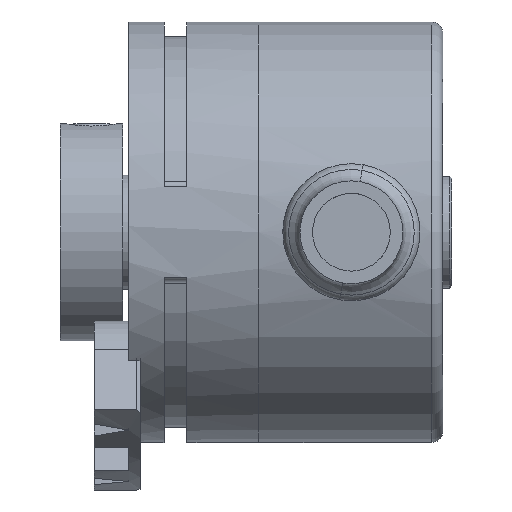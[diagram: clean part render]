
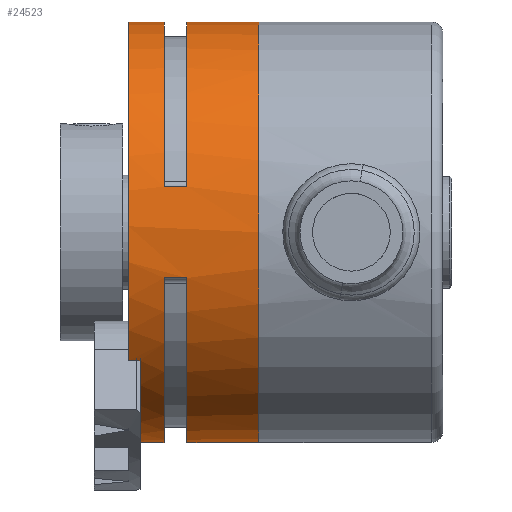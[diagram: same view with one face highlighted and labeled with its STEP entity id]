
A CAD part, front view. The second image highlights one B-rep face of the part: STEP entity #24523.
In plain terms, the highlighted cylindrical face has radius 18.4 mm (diameter 36.8 mm), a partial arc.
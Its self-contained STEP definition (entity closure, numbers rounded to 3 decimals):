
#22611 = VERTEX_POINT ( 'NONE', #25845 ) ;
#22632 = EDGE_CURVE ( 'NONE', #22634, #22738, #25888, .T. ) ;
#22634 = VERTEX_POINT ( 'NONE', #26017 ) ;
#22708 = VERTEX_POINT ( 'NONE', #26231 ) ;
#22709 = VERTEX_POINT ( 'NONE', #26222 ) ;
#22712 = VERTEX_POINT ( 'NONE', #26207 ) ;
#22724 = EDGE_CURVE ( 'NONE', #22709, #22712, #26174, .T. ) ;
#22729 = VERTEX_POINT ( 'NONE', #26286 ) ;
#22731 = EDGE_CURVE ( 'NONE', #22708, #22729, #26282, .T. ) ;
#22733 = VERTEX_POINT ( 'NONE', #26276 ) ;
#22738 = VERTEX_POINT ( 'NONE', #26262 ) ;
#22740 = EDGE_CURVE ( 'NONE', #22611, #22733, #26257, .T. ) ;
#24410 = ORIENTED_EDGE ( 'NONE', *, *, #24432, .T. ) ;
#24422 = ORIENTED_EDGE ( 'NONE', *, *, #22724, .F. ) ;
#24423 = EDGE_LOOP ( 'NONE', ( #24422, #24424, #24478, #24410, #24470, #24469, #24693, #24688, #24634, #24696, #24627, #24631, #24691, #24684, #24701, #24741 ) ) ;
#24424 = ORIENTED_EDGE ( 'NONE', *, *, #24426, .T. ) ;
#24425 = VERTEX_POINT ( 'NONE', #33466 ) ;
#24426 = EDGE_CURVE ( 'NONE', #22709, #22708, #33465, .T. ) ;
#24432 = EDGE_CURVE ( 'NONE', #22729, #24425, #33506, .T. ) ;
#24469 = ORIENTED_EDGE ( 'NONE', *, *, #24650, .F. ) ;
#24470 = ORIENTED_EDGE ( 'NONE', *, *, #24473, .T. ) ;
#24473 = EDGE_CURVE ( 'NONE', #24425, #24522, #33587, .T. ) ;
#24478 = ORIENTED_EDGE ( 'NONE', *, *, #22731, .T. ) ;
#24522 = VERTEX_POINT ( 'NONE', #33665 ) ;
#24523 = ADVANCED_FACE ( 'NONE', ( #33664 ), #33705, .T. ) ;
#24614 = EDGE_CURVE ( 'NONE', #24632, #22738, #33866, .T. ) ;
#24621 = EDGE_CURVE ( 'NONE', #24638, #24630, #33857, .T. ) ;
#24625 = EDGE_CURVE ( 'NONE', #24638, #24626, #33915, .T. ) ;
#24626 = VERTEX_POINT ( 'NONE', #33911 ) ;
#24627 = ORIENTED_EDGE ( 'NONE', *, *, #24625, .T. ) ;
#24630 = VERTEX_POINT ( 'NONE', #33945 ) ;
#24631 = ORIENTED_EDGE ( 'NONE', *, *, #24689, .F. ) ;
#24632 = VERTEX_POINT ( 'NONE', #33944 ) ;
#24634 = ORIENTED_EDGE ( 'NONE', *, *, #24697, .F. ) ;
#24638 = VERTEX_POINT ( 'NONE', #33943 ) ;
#24650 = EDGE_CURVE ( 'NONE', #22634, #24522, #33924, .T. ) ;
#24667 = EDGE_CURVE ( 'NONE', #24703, #24734, #33984, .T. ) ;
#24684 = ORIENTED_EDGE ( 'NONE', *, *, #24707, .F. ) ;
#24688 = ORIENTED_EDGE ( 'NONE', *, *, #24614, .F. ) ;
#24689 = EDGE_CURVE ( 'NONE', #22733, #24626, #34086, .T. ) ;
#24691 = ORIENTED_EDGE ( 'NONE', *, *, #22740, .F. ) ;
#24693 = ORIENTED_EDGE ( 'NONE', *, *, #22632, .T. ) ;
#24696 = ORIENTED_EDGE ( 'NONE', *, *, #24621, .F. ) ;
#24697 = EDGE_CURVE ( 'NONE', #24630, #24632, #34124, .T. ) ;
#24701 = ORIENTED_EDGE ( 'NONE', *, *, #24667, .F. ) ;
#24703 = VERTEX_POINT ( 'NONE', #34156 ) ;
#24707 = EDGE_CURVE ( 'NONE', #24734, #22611, #34145, .T. ) ;
#24734 = VERTEX_POINT ( 'NONE', #34232 ) ;
#24736 = EDGE_CURVE ( 'NONE', #24703, #22712, #34231, .T. ) ;
#24741 = ORIENTED_EDGE ( 'NONE', *, *, #24736, .T. ) ;
#25845 = CARTESIAN_POINT ( 'NONE',  ( 84.26, -17.498, -18.4 ) ) ;
#25886 = CARTESIAN_POINT ( 'NONE',  ( 76.76, -17.498, 18.4 ) ) ;
#25888 = LINE ( 'NONE', #25886, #26021 ) ;
#26017 = CARTESIAN_POINT ( 'NONE',  ( 84.26, -17.498, 18.4 ) ) ;
#26020 = DIRECTION ( 'NONE',  ( -1., 0., 0. ) ) ;
#26021 = VECTOR ( 'NONE', #26020, 1000. ) ;
#26170 = DIRECTION ( 'NONE',  ( -1., 0., 0. ) ) ;
#26171 = VECTOR ( 'NONE', #26170, 1000. ) ;
#26173 = CARTESIAN_POINT ( 'NONE',  ( 76.76, -17.498, -18.4 ) ) ;
#26174 = LINE ( 'NONE', #26173, #26171 ) ;
#26207 = CARTESIAN_POINT ( 'NONE',  ( 86.26, -17.498, -18.4 ) ) ;
#26222 = CARTESIAN_POINT ( 'NONE',  ( 92.56, -17.498, -18.4 ) ) ;
#26231 = CARTESIAN_POINT ( 'NONE',  ( 92.56, -17.498, 18.4 ) ) ;
#26252 = DIRECTION ( 'NONE',  ( -1., 0., 0. ) ) ;
#26253 = VECTOR ( 'NONE', #26252, 1000. ) ;
#26255 = CARTESIAN_POINT ( 'NONE',  ( 76.76, -17.498, -18.4 ) ) ;
#26257 = LINE ( 'NONE', #26255, #26253 ) ;
#26262 = CARTESIAN_POINT ( 'NONE',  ( 81.16, -17.498, 18.4 ) ) ;
#26276 = CARTESIAN_POINT ( 'NONE',  ( 81.16, -17.498, -18.4 ) ) ;
#26277 = DIRECTION ( 'NONE',  ( -1., 0., 0. ) ) ;
#26279 = VECTOR ( 'NONE', #26277, 1000. ) ;
#26281 = CARTESIAN_POINT ( 'NONE',  ( 76.76, -17.498, 18.4 ) ) ;
#26282 = LINE ( 'NONE', #26281, #26279 ) ;
#26286 = CARTESIAN_POINT ( 'NONE',  ( 86.26, -17.498, 18.4 ) ) ;
#33461 = DIRECTION ( 'NONE',  ( 0., 0., 1. ) ) ;
#33462 = DIRECTION ( 'NONE',  ( -1., 0., 0. ) ) ;
#33463 = CARTESIAN_POINT ( 'NONE',  ( 92.56, -17.498, 0. ) ) ;
#33464 = AXIS2_PLACEMENT_3D ( 'NONE', #33463, #33462, #33461 ) ;
#33465 = CIRCLE ( 'NONE', #33464, 18.4 ) ;
#33466 = CARTESIAN_POINT ( 'NONE',  ( 86.26, -35.458, 4. ) ) ;
#33502 = DIRECTION ( 'NONE',  ( 0., 0., -1. ) ) ;
#33503 = DIRECTION ( 'NONE',  ( 1., 0., 0. ) ) ;
#33504 = CARTESIAN_POINT ( 'NONE',  ( 86.26, -17.498, 0. ) ) ;
#33505 = AXIS2_PLACEMENT_3D ( 'NONE', #33504, #33503, #33502 ) ;
#33506 = CIRCLE ( 'NONE', #33505, 18.4 ) ;
#33584 = DIRECTION ( 'NONE',  ( -1., 0., 0. ) ) ;
#33585 = VECTOR ( 'NONE', #33584, 1000. ) ;
#33586 = CARTESIAN_POINT ( 'NONE',  ( 86.26, -35.458, 4. ) ) ;
#33587 = LINE ( 'NONE', #33586, #33585 ) ;
#33664 = FACE_OUTER_BOUND ( 'NONE', #24423, .T. ) ;
#33665 = CARTESIAN_POINT ( 'NONE',  ( 84.26, -35.458, 4. ) ) ;
#33702 = DIRECTION ( 'NONE',  ( 0., 0., 1. ) ) ;
#33703 = DIRECTION ( 'NONE',  ( -1., 0., 0. ) ) ;
#33704 = AXIS2_PLACEMENT_3D ( 'NONE', #33706, #33703, #33702 ) ;
#33705 = CYLINDRICAL_SURFACE ( 'NONE', #33704, 18.4 ) ;
#33706 = CARTESIAN_POINT ( 'NONE',  ( 76.76, -17.498, 0. ) ) ;
#33736 = DIRECTION ( 'NONE',  ( -1., 0., 0. ) ) ;
#33737 = VECTOR ( 'NONE', #33736, 1000. ) ;
#33855 = CARTESIAN_POINT ( 'NONE',  ( 82.16, -17.498, 0. ) ) ;
#33856 = AXIS2_PLACEMENT_3D ( 'NONE', #33855, #33918, #33917 ) ;
#33857 = CIRCLE ( 'NONE', #33856, 18.4 ) ;
#33863 = DIRECTION ( 'NONE',  ( 0., 0., 1. ) ) ;
#33864 = DIRECTION ( 'NONE',  ( -1., 0., 0. ) ) ;
#33865 = AXIS2_PLACEMENT_3D ( 'NONE', #33873, #33864, #33863 ) ;
#33866 = CIRCLE ( 'NONE', #33865, 18.4 ) ;
#33873 = CARTESIAN_POINT ( 'NONE',  ( 81.16, -17.498, 0. ) ) ;
#33911 = CARTESIAN_POINT ( 'NONE',  ( 81.16, -19.944, -18.237 ) ) ;
#33912 = DIRECTION ( 'NONE',  ( -1., 0., 0. ) ) ;
#33913 = VECTOR ( 'NONE', #33912, 1000. ) ;
#33914 = CARTESIAN_POINT ( 'NONE',  ( 82.16, -19.944, -18.237 ) ) ;
#33915 = LINE ( 'NONE', #33914, #33913 ) ;
#33917 = DIRECTION ( 'NONE',  ( 0., 0., 1. ) ) ;
#33918 = DIRECTION ( 'NONE',  ( -1., 0., 0. ) ) ;
#33920 = DIRECTION ( 'NONE',  ( 0., 0., -1. ) ) ;
#33921 = DIRECTION ( 'NONE',  ( 1., 0., 0. ) ) ;
#33922 = CARTESIAN_POINT ( 'NONE',  ( 84.26, -17.498, 0. ) ) ;
#33923 = AXIS2_PLACEMENT_3D ( 'NONE', #33922, #33921, #33920 ) ;
#33924 = CIRCLE ( 'NONE', #33923, 18.4 ) ;
#33943 = CARTESIAN_POINT ( 'NONE',  ( 82.16, -19.944, -18.237 ) ) ;
#33944 = CARTESIAN_POINT ( 'NONE',  ( 81.16, -32.069, -11.237 ) ) ;
#33945 = CARTESIAN_POINT ( 'NONE',  ( 82.16, -32.069, -11.237 ) ) ;
#33983 = CARTESIAN_POINT ( 'NONE',  ( 86.26, -35.458, -4. ) ) ;
#33984 = LINE ( 'NONE', #33983, #33737 ) ;
#34082 = DIRECTION ( 'NONE',  ( 0., 0., 1. ) ) ;
#34083 = DIRECTION ( 'NONE',  ( -1., 0., 0. ) ) ;
#34084 = CARTESIAN_POINT ( 'NONE',  ( 81.16, -17.498, 0. ) ) ;
#34085 = AXIS2_PLACEMENT_3D ( 'NONE', #34084, #34083, #34082 ) ;
#34086 = CIRCLE ( 'NONE', #34085, 18.4 ) ;
#34116 = DIRECTION ( 'NONE',  ( -1., 0., 0. ) ) ;
#34117 = VECTOR ( 'NONE', #34116, 1000. ) ;
#34118 = CARTESIAN_POINT ( 'NONE',  ( 82.16, -32.069, -11.237 ) ) ;
#34124 = LINE ( 'NONE', #34118, #34117 ) ;
#34141 = DIRECTION ( 'NONE',  ( 0., 0., -1. ) ) ;
#34142 = DIRECTION ( 'NONE',  ( 1., 0., 0. ) ) ;
#34143 = CARTESIAN_POINT ( 'NONE',  ( 84.26, -17.498, 0. ) ) ;
#34144 = AXIS2_PLACEMENT_3D ( 'NONE', #34143, #34142, #34141 ) ;
#34145 = CIRCLE ( 'NONE', #34144, 18.4 ) ;
#34156 = CARTESIAN_POINT ( 'NONE',  ( 86.26, -35.458, -4. ) ) ;
#34227 = DIRECTION ( 'NONE',  ( 0., 0., -1. ) ) ;
#34228 = DIRECTION ( 'NONE',  ( 1., 0., 0. ) ) ;
#34229 = CARTESIAN_POINT ( 'NONE',  ( 86.26, -17.498, 0. ) ) ;
#34230 = AXIS2_PLACEMENT_3D ( 'NONE', #34229, #34228, #34227 ) ;
#34231 = CIRCLE ( 'NONE', #34230, 18.4 ) ;
#34232 = CARTESIAN_POINT ( 'NONE',  ( 84.26, -35.458, -4. ) ) ;
